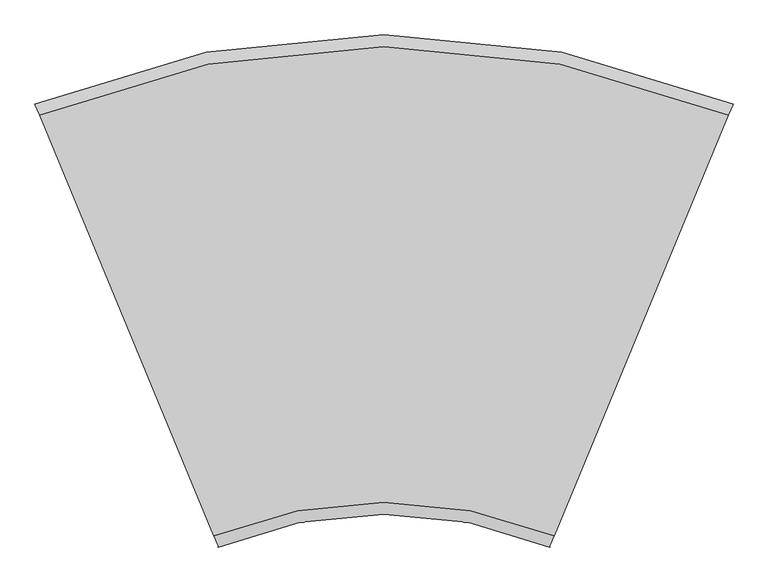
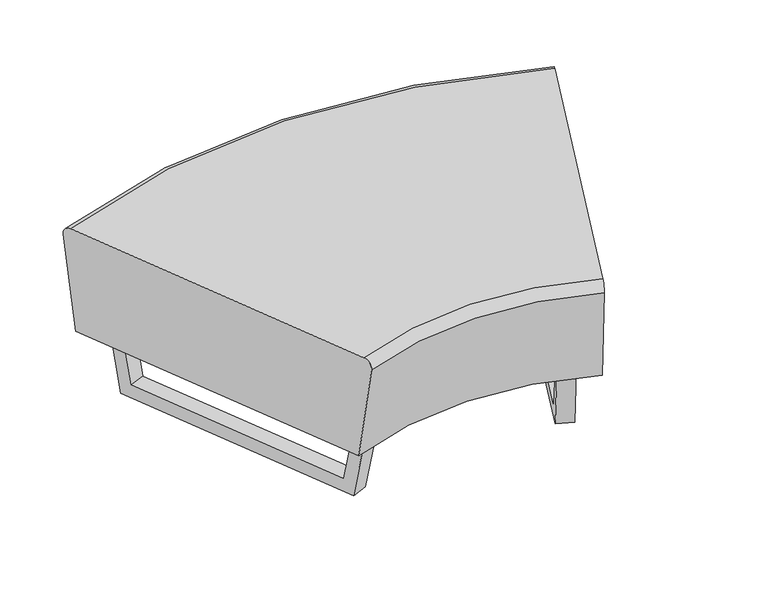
"""IFC4 building model written with IfcOpenShell, lengths in millimetres: furniture geometry, Furniture-Sofa-LyndonDesign-Us_US_7 : Furniture-Sofa-LyndonDesign-Us_US_7."""

from ifc_helpers import new_model, si_unit, point, frame, origin, place, context, project, spatial, polyline, circle_curve, ellipse_curve, trimmed, outline, extrude, source, transform, mapped, element, save
from ifc_brep_helpers import plane_surface, revolved_surface, advanced_brep


def furniture_fa0442d4(model_context):
    return source(origin(), model_context, "Body", "SolidModel", [
        advanced_brep(
        [(571.3376862, 629.0871535, 400.0), (282.1461707, -69.0829254, 400.0), (274.5350749, -87.4577362, 377.8934504), (287.1059633, -57.1089268, 150.0008635), (566.3714799, 617.0976709, 150.0008635), (578.9493307, 647.4632888, 377.9070309), (-571.3376862, 629.0871535, 400.0), (-578.9493307, 647.4632888, 377.9070309), (-566.3714799, 617.0976709, 150.0008635), (-287.1059633, -57.1089268, 150.0008635), (-274.5350749, -87.4577362, 377.8934504), (-282.1461707, -69.0829254, 400.0)],
        [
            (0, 1),
            (1, 2, circle_curve(frame((282.1461707, -69.0829254, 380.0), z_axis=(0.923879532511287, -0.3826834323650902, 0.0), x_axis=(-0.3826834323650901, -0.9238795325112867, 0.0)), 20.0)),
            (2, 3, circle_curve(frame((1438.9244518, 2723.6268894, 700.1655651), z_axis=(0.923879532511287, -0.3826834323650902, 0.0), x_axis=(-0.3826834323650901, -0.9238795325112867, 0.0)), 3059.7154621)),
            (3, 4),
            (4, 5, circle_curve(frame((-562.7846627, -2108.9264025, 691.8489037), z_axis=(0.923879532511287, -0.3826834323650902, 0.0), x_axis=(-0.3826834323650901, -0.9238795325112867, 0.0)), 2999.9666901)),
            (5, 0, circle_curve(frame((571.3376862, 629.0871535, 380.0), z_axis=(0.923879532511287, -0.3826834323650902, 0.0), x_axis=(-0.3826834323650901, -0.9238795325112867, 0.0)), 20.0)),
            (6, 7, circle_curve(frame((-571.3376862, 629.0871535, 380.0), z_axis=(-0.9238795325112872, -0.38268343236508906, 0.0), x_axis=(0.3826834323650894, -0.9238795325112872, 0.0)), 20.0)),
            (7, 8, circle_curve(frame((562.7846627, -2108.9264025, 691.8489037), z_axis=(-0.9238795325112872, -0.38268343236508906, 0.0), x_axis=(0.3826834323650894, -0.9238795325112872, 0.0)), 2999.9666901)),
            (8, 9),
            (9, 10, circle_curve(frame((-1438.9244518, 2723.6268894, 700.1655651), z_axis=(-0.9238795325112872, -0.38268343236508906, 0.0), x_axis=(0.3826834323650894, -0.9238795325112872, 0.0)), 3059.7154621)),
            (10, 11, circle_curve(frame((-282.1461707, -69.0829254, 380.0), z_axis=(-0.9238795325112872, -0.38268343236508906, 0.0), x_axis=(0.3826834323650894, -0.9238795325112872, 0.0)), 20.0)),
            (11, 6),
            (11, 1, circle_curve(frame((0.0, -750.2440372, 400.0), z_axis=(0.0, 0.0, -1.0), x_axis=(0.38268343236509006, 0.9238795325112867, 0.0)), 737.2834746)),
            (0, 6, circle_curve(frame((0.0, -750.2440372, 400.0), z_axis=(0.0, 0.0, 1.0), x_axis=(0.38268343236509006, 0.9238795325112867, 0.0)), 1492.9773225)),
            (10, 2, circle_curve(frame((0.0, -750.2440372, 377.8934504), z_axis=(0.0, 0.0, -1.0), x_axis=(0.38268343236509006, 0.9238795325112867, 0.0)), 717.3947227)),
            (9, 3, circle_curve(frame((0.0, -750.2440372, 150.0008635), z_axis=(0.0, 0.0, -1.0), x_axis=(0.38268343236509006, 0.9238795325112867, 0.0)), 750.2440372)),
            (8, 4, circle_curve(frame((0.0, -750.2440372, 150.0008635), z_axis=(0.0, 0.0, -1.0), x_axis=(0.38268343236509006, 0.9238795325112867, 0.0)), 1480.0)),
            (7, 5, circle_curve(frame((0.0, -750.2440372, 377.9070309), z_axis=(0.0, 0.0, -1.0), x_axis=(0.38268343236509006, 0.9238795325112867, 0.0)), 1512.867508)),
        ],
        [
            plane_surface(frame((566.3714799, 617.0976709, 150.0008635), z_axis=(0.9238795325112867, -0.38268343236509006, 0.0), x_axis=(0.0, 0.0, 1.0))),
            plane_surface(frame((-566.3714799, 617.0976709, 150.0008635), z_axis=(-0.923879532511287, -0.38268343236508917, 0.0), x_axis=(0.0, 0.0, 1.0))),
            plane_surface(frame((0.0, -750.2440372, 400.0), z_axis=(0.0, 0.0, 1.0000000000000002), x_axis=(0.38268343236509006, 0.9238795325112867, 0.0))),
            revolved_surface(trimmed(ellipse_curve(frame((282.1461707, -69.0829254, 380.0), z_axis=(0.923879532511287, -0.3826834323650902, 0.0), x_axis=(-0.3826834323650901, -0.9238795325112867, 0.0)), 20.0, 20.0), [point((282.1461707, -69.0829254, 400.0))], [point((274.5350749, -87.4577362, 377.8934504))], True, "CARTESIAN"), (0.0, -750.2440372, 150.0008635), (0.0, 0.0, 1.0000000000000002)),
            revolved_surface(trimmed(ellipse_curve(frame((1438.9244518, 2723.6268894, 700.1655651), z_axis=(0.923879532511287, -0.3826834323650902, 0.0), x_axis=(-0.3826834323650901, -0.9238795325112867, 0.0)), 3059.7154621, 3059.7154621), [point((274.5350749, -87.4577362, 377.8934504))], [point((287.1059633, -57.1089268, 150.0008635))], True, "CARTESIAN"), (0.0, -750.2440372, 150.0008635), (0.0, 0.0, 1.0000000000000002)),
            plane_surface(frame((0.0, -750.2440372, 150.0008635), z_axis=(0.0, 0.0, -1.0000000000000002), x_axis=(0.38268343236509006, 0.9238795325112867, 0.0))),
            revolved_surface(trimmed(ellipse_curve(frame((-562.7846627, -2108.9264025, 691.8489037), z_axis=(0.923879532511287, -0.3826834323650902, 0.0), x_axis=(-0.3826834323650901, -0.9238795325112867, 0.0)), 2999.9666901, 2999.9666901), [point((566.3714799, 617.0976709, 150.0008635))], [point((578.9493307, 647.4632888, 377.9070309))], True, "CARTESIAN"), (0.0, -750.2440372, 150.0008635), (0.0, 0.0, 1.0000000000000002)),
            revolved_surface(trimmed(ellipse_curve(frame((571.3376862, 629.0871535, 380.0), z_axis=(0.923879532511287, -0.3826834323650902, 0.0), x_axis=(-0.3826834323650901, -0.9238795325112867, 0.0)), 20.0, 20.0), [point((578.9493307, 647.4632888, 377.9070309))], [point((571.3376862, 629.0871535, 400.0))], True, "CARTESIAN"), (0.0, -750.2440372, 150.0008635), (0.0, 0.0, 1.0000000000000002)),
        ],
        [
            (0, [[1, 2, 3, 4, 5, 6]]),
            (1, [[7, 8, 9, 10, 11, 12]]),
            (2, [[13, -1, 14, -12]]),
            (3, [[15, -2, -13, -11]]),
            (4, [[16, -3, -15, -10]]),
            (5, [[17, -4, -16, -9]]),
            (6, [[18, -5, -17, -8]]),
            (7, [[-14, -6, -18, -7]]),
        ],
    ),
        extrude(outline(polyline([(-144.0066093, 0.0), (8.7445146, 0.0), (-115.5018078, -645.8726429), (-257.350926, -589.2004845), (-144.0066093, 0.0)]), holes=[polyline([(-220.9387595, -569.2750721), (-133.9240701, -604.0236811), (-23.8893051, -32.027319), (-117.5831293, -31.9990166), (-220.9387595, -569.2750721)])]), frame((-250.4729164, -14.8926289, 141.4137925), z_axis=(0.9238795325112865, 0.38268343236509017, 0.0), x_axis=(0.07229123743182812, -0.1745264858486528, 0.9819951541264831)), (0.0, 0.0, 1.0), 40.0),
        extrude(outline(polyline([(-789.9948218, 0.0), (-189.9913676, 0.0), (-161.1357474, -150.0008635), (-818.850442, -150.0008635), (-789.9948218, 0.0)]), holes=[polyline([(-216.4365067, -31.992539), (-763.5634993, -31.992539), (-781.2350421, -124.0047668), (-198.7511472, -124.0047668), (-216.4365067, -31.992539)])]), frame((563.2012624, 740.1003852, 0.0), z_axis=(-0.9238795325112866, 0.38268343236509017, 0.0), x_axis=(0.38268343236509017, 0.9238795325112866, 0.0)), (0.0, 0.0, 1.0), 40.0),
    ])


if __name__ == "__main__":
    model = new_model("IFC4")
    model_context = context("Model", 3, world=origin())
    ifc_project = project(units=[si_unit("LENGTHUNIT", "METRE", prefix="MILLI")], contexts=[model_context])
    site = spatial("IfcSite", under=ifc_project)
    building = spatial("IfcBuilding", under=site)
    placement = place(None, origin())
    furniture_shape = furniture_fa0442d4(model_context)
    element("IfcFurniture", 1, ObjectType="Furniture-Sofa-LyndonDesign-Us_US_7 : Furniture-Sofa-LyndonDesign-Us_US_7", at=placement, inside=building, context=model_context, shape_type="MappedRepresentation", body=[
        mapped(furniture_shape, transform((0.0, 0.0, 0.0), x_axis=(1.0, 0.0, 0.0), y_axis=(0.0, 1.0, 0.0), z_axis=(0.0, 0.0, 1.0))),
    ])
    save(model, "model.ifc")
